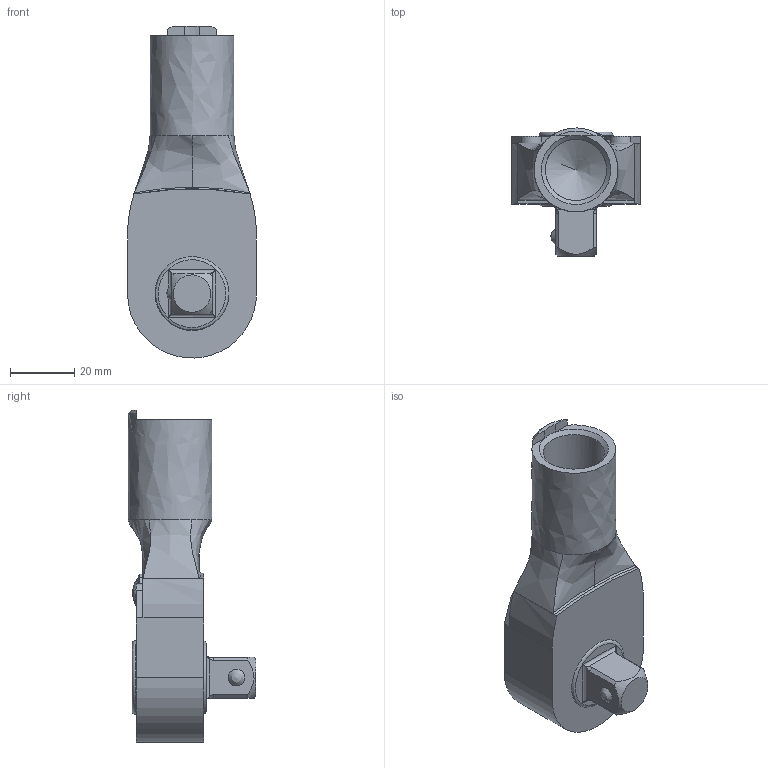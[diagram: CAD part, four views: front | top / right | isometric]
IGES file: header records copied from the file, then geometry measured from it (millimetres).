
Global section: file name: QH19D; native system: Autodesk Inventor 2016; preprocessor: unknown; author: Q600; date: 20151016.164054; units: millimetre
Bounding box: 40 x 39.6 x 102.98 mm (x, y, z)
Volume: 61263.9 mm3; surface area: 13594.9 mm2
Topology: 1 solids, 1 shells, 94 faces, 279 edges, 186 vertices
Faces by surface type: bspline 94
